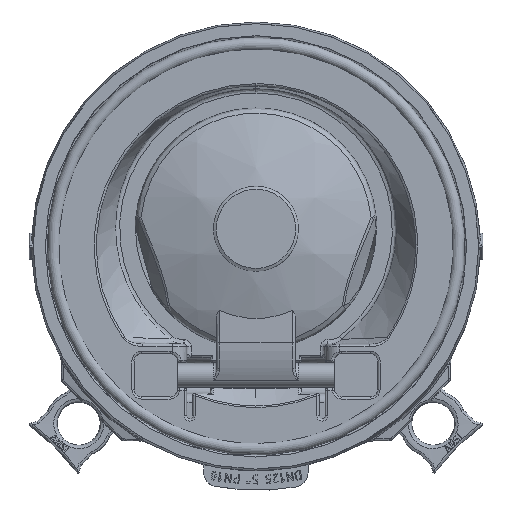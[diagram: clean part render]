
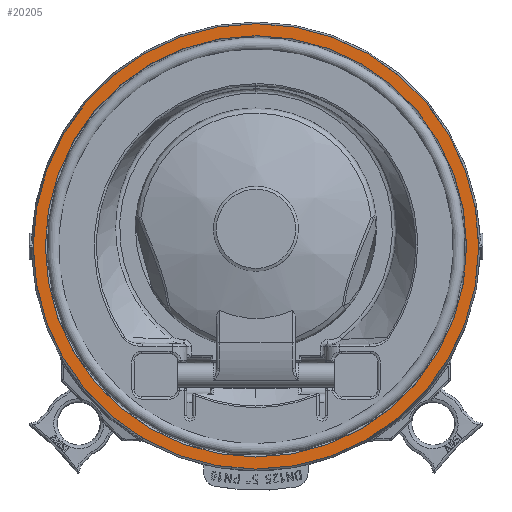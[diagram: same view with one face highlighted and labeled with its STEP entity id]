
A CAD part, top view. The second image highlights one B-rep face of the part: STEP entity #20205.
In plain terms, the highlighted planar face has unit normal (0, 0, 1).
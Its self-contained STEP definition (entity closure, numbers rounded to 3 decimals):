
#753=PLANE('',#21554);
#1004=FACE_BOUND('',#3590,.T.);
#1438=CIRCLE('',#21164,93.3);
#1460=CIRCLE('',#21205,88.25);
#2403=FACE_OUTER_BOUND('',#3589,.T.);
#3589=EDGE_LOOP('',(#14859));
#3590=EDGE_LOOP('',(#14860));
#7880=VERTEX_POINT('',#27954);
#7926=VERTEX_POINT('',#28075);
#9863=EDGE_CURVE('',#7880,#7880,#1438,.T.);
#9912=EDGE_CURVE('',#7926,#7926,#1460,.T.);
#14859=ORIENTED_EDGE('',*,*,#9863,.F.);
#14860=ORIENTED_EDGE('',*,*,#9912,.F.);
#20205=ADVANCED_FACE('',(#2403,#1004),#753,.T.);
#21164=AXIS2_PLACEMENT_3D('',#27955,#23103,#23104);
#21205=AXIS2_PLACEMENT_3D('',#28076,#23203,#23204);
#21554=AXIS2_PLACEMENT_3D('',#39805,#24469,#24470);
#23103=DIRECTION('center_axis',(0.,0.,
-1.));
#23104=DIRECTION('ref_axis',(1.,-0.001,0.));
#23203=DIRECTION('center_axis',(0.,0.,
1.));
#23204=DIRECTION('ref_axis',(-1.,0.001,0.));
#24469=DIRECTION('center_axis',(0.,0.,
1.));
#24470=DIRECTION('ref_axis',(1.,-0.001,0.));
#27954=CARTESIAN_POINT('',(-93.3,0.098,11.957));
#27955=CARTESIAN_POINT('Origin',(0.,-0.004,
11.957));
#28075=CARTESIAN_POINT('',(88.25,-0.101,11.957));
#28076=CARTESIAN_POINT('Origin',(0.,-0.004,
11.957));
#39805=CARTESIAN_POINT('Origin',(0.,-0.004,
11.957));
